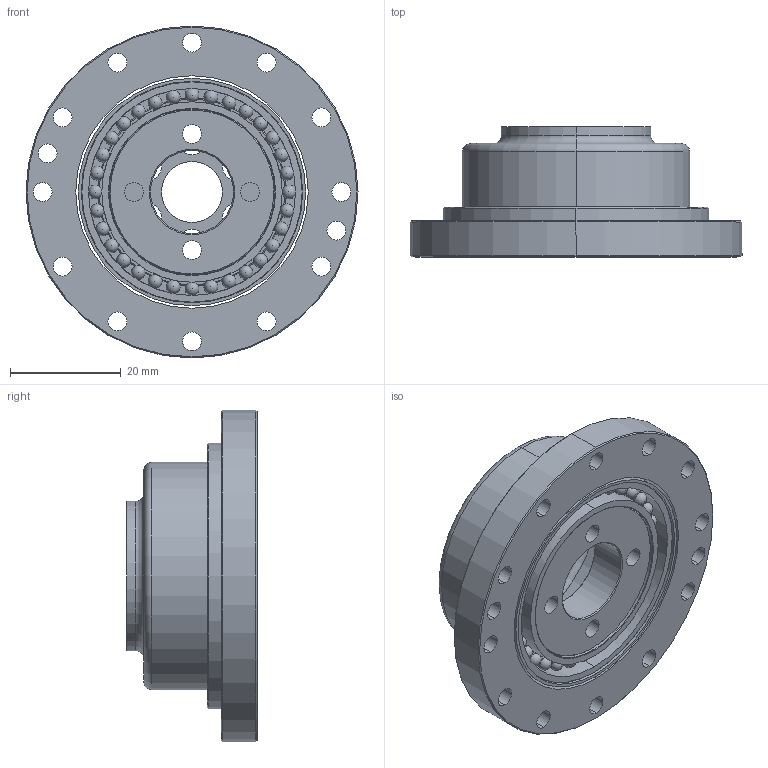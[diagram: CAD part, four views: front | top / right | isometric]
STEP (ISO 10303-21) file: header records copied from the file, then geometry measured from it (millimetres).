
FILE_DESCRIPTION (( 'STEP AP203' ), '1' );
FILE_NAME ('PGK 13-100.STEP', '2022-09-18T13:41:20', ( '' ), ( '' ), 'SwSTEP 2.0', 'SolidWorks 2018', '' );
FILE_SCHEMA (( 'CONFIG_CONTROL_DESIGN' ));
Length unit declared in the file: millimetre
Products named in the file (5): PGK 13-100; PGK13-160-03; PGK13-160-01; PGK13-160-04; PGK13-160-02
Assembly tree (4 placements, depth 2):
  PGK 13-100
    PGK13-160-01
    PGK13-160-02
    PGK13-160-04
    PGK13-160-03
Bounding box: 60 x 23.5 x 60 mm (x, y, z)
Volume: 18375 mm3; surface area: 20664.8 mm2
Topology: 4 solids, 4 shells, 190 faces, 762 edges, 518 vertices
Faces by surface type: cylinder 78, sphere 64, torus 14, plane 14, cone 14, bspline 6
Entity records: 11983 total; most frequent: CARTESIAN_POINT 6027, ORIENTED_EDGE 1148, DIRECTION 1132, EDGE_CURVE 574, AXIS2_PLACEMENT_3D 517, VERTEX_POINT 394, CIRCLE 326, EDGE_LOOP 316
